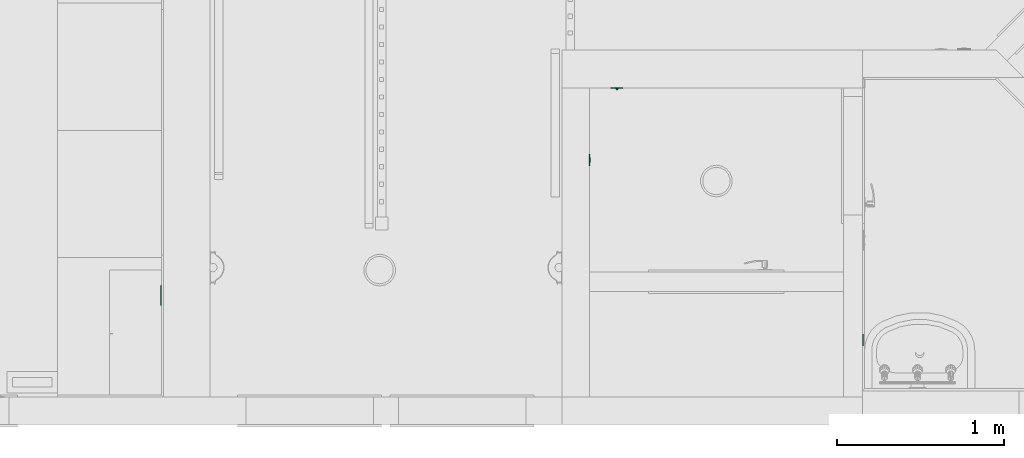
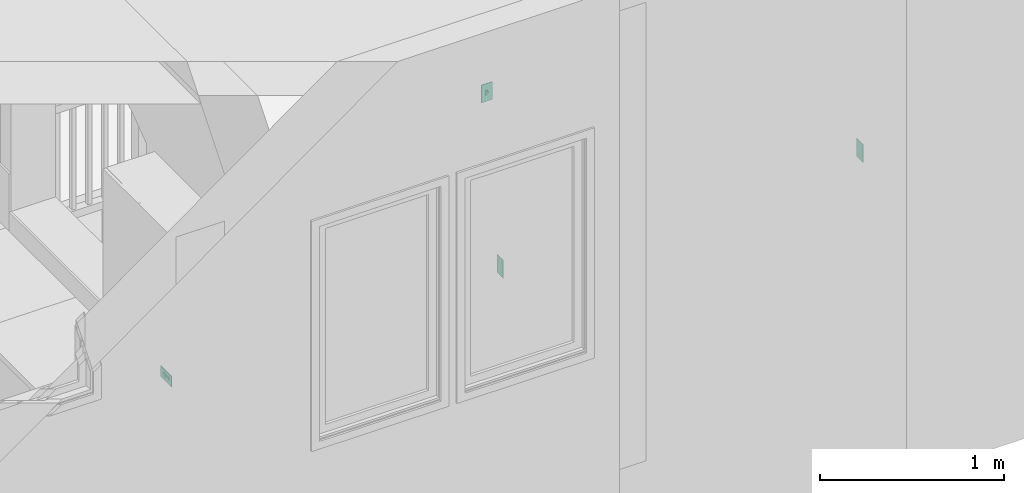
# One storey, part 12 of 103: 4 flow controllers.
"""IFC2X3 building model written with IfcOpenShell, lengths in inches."""

from ifc_helpers import new_model, entity, si_unit, converted_unit, derived_unit, money_unit, direction, frame, origin_with_axes, place, context, subcontext, project, spatial, faceted_brep, source, transform, mapped, type_object, element, save


model = new_model("IFC2X3")

# Units and contexts
model_context = context("Model", 3, precision=0.00039370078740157, world=origin_with_axes(), true_north=direction((0.0, 1.0)))
plan_context = context("Plan", 3, precision=0.00039370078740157, world=origin_with_axes(), true_north=direction((0.0, 1.0)))
body_context = subcontext(model_context, "Body", "Model", "MODEL_VIEW")
ifc_project = project(units=[converted_unit("LENGTHUNIT", "INCH", entity("IfcPositiveLengthMeasure", 0.0254), si_unit("LENGTHUNIT", "METRE"), dimensions=[1, 0, 0, 0, 0, 0, 0]), converted_unit("AREAUNIT", "SQUARE_FOOT", entity("IfcPositiveLengthMeasure", 0.09290304), si_unit("AREAUNIT", "SQUARE_METRE"), dimensions=[2, 0, 0, 0, 0, 0, 0]), si_unit("PLANEANGLEUNIT", "RADIAN"), si_unit("SOLIDANGLEUNIT", "STERADIAN"), money_unit("USD"), converted_unit("TIMEUNIT", "Year", entity("IfcTimeMeasure", 31557600.0), si_unit("TIMEUNIT", "SECOND"), dimensions=[0, 0, 1, 0, 0, 0, 0]), si_unit("MASSUNIT", "GRAM", prefix="KILO"), si_unit("THERMODYNAMICTEMPERATUREUNIT", "DEGREE_CELSIUS"), si_unit("LUMINOUSINTENSITYUNIT", "LUMEN"), si_unit("ENERGYUNIT", "JOULE", prefix="MEGA"), derived_unit("SPECIFICHEATCAPACITYUNIT", [(si_unit("ENERGYUNIT", "JOULE"), 1), (si_unit("MASSUNIT", "GRAM", prefix="KILO"), -1), (si_unit("THERMODYNAMICTEMPERATUREUNIT", "KELVIN"), -1)])], contexts=[model_context, plan_context])

# Site, building, storey
site_placement = place(None, origin_with_axes())
site = spatial("IfcSite", under=ifc_project, at=site_placement, Name="Site", CompositionType="ELEMENT")
building_placement = place(site_placement, origin_with_axes())
building = spatial("IfcBuilding", under=site, at=building_placement, Name="Building", CompositionType="ELEMENT")
storey_placement = place(building_placement, frame((0.0, 0.0, 127.9999999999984), z_axis=(0.0, 0.0, 1.0), x_axis=(1.0, 0.0, 0.0)))
storey = spatial("IfcBuildingStorey", under=building, at=storey_placement, Name="Second Floor", CompositionType="ELEMENT", Elevation=128.0)

# Flow controllers
switching_device_type_1 = type_object("IfcSwitchingDeviceType", Name="Outlet 1 US", PredefinedType="NOTDEFINED")
shared_shape_1 = source(origin_with_axes(), body_context, "Body", "Brep", [
    faceted_brep([(0.39370078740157, -0.03444881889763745, -1.18110236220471), (0.5436477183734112, -0.03444881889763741, -0.7086614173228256), (0.5436477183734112, -0.2165354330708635, -0.7086614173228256), (0.39370078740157, -0.2165354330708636, -1.18110236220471), (-0.3937007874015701, -0.03444881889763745, -1.181102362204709), (-0.543647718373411, -0.03444881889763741, -0.7086614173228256), (-0.39370078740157, -0.03444881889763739, -0.2362204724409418), (0.3937007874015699, -0.03444881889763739, -0.2362204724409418), (-0.196850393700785, -0.03444881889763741, -0.7086614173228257), (-0.196850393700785, -0.0344488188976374, -0.4724409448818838), (-0.275590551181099, -0.0344488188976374, -0.4724409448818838), (-0.275590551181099, -0.03444881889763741, -0.7086614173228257), (0.196850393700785, -0.03444881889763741, -0.7086614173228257), (0.275590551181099, -0.03444881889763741, -0.7086614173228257), (0.275590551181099, -0.0344488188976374, -0.4724409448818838), (0.196850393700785, -0.0344488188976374, -0.4724409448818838), (-0.078740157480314, -0.03444881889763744, -1.102362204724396), (0.078740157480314, -0.03444881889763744, -1.102362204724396), (0.078740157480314, -0.03444881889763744, -1.023622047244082), (0.06819097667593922, -0.03444881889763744, -0.9842519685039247), (0.03937007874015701, -0.03444881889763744, -0.9554310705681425), (0.0, -0.03444881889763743, -0.9448818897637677), (-0.03937007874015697, -0.03444881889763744, -0.9554310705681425), (-0.06819097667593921, -0.03444881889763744, -0.9842519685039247), (-0.078740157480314, -0.03444881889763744, -1.023622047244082), (0.3937007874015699, -0.2165354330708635, -0.2362204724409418), (-0.39370078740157, -0.2165354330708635, -0.2362204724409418), (-0.543647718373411, -0.2165354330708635, -0.7086614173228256), (-0.3937007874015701, -0.2165354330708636, -1.181102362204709), (-0.196850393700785, -0.2165354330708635, -0.7086614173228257), (-0.275590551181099, -0.2165354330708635, -0.7086614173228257), (-0.275590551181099, -0.2165354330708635, -0.4724409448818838), (-0.196850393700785, -0.2165354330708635, -0.4724409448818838), (0.196850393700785, -0.2165354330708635, -0.7086614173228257), (0.196850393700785, -0.2165354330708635, -0.4724409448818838), (0.275590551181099, -0.2165354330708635, -0.4724409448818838), (0.275590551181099, -0.2165354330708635, -0.7086614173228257), (-0.078740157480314, -0.2165354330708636, -1.102362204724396), (-0.078740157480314, -0.2165354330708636, -1.023622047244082), (-0.06819097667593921, -0.2165354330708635, -0.9842519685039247), (-0.03937007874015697, -0.2165354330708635, -0.9554310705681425), (0.0, -0.2165354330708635, -0.9448818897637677), (0.03937007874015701, -0.2165354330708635, -0.9554310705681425), (0.06819097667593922, -0.2165354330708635, -0.9842519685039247), (0.078740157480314, -0.2165354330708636, -1.023622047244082), (0.078740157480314, -0.2165354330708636, -1.102362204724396)], [[[0, 1, 2, 3]], [[0, 4, 5, 6, 7, 1], [8, 9, 10, 11], [12, 13, 14, 15], [16, 17, 18, 19, 20, 21, 22, 23, 24]], [[1, 7, 25, 2]], [[3, 2, 25, 26, 27, 28], [29, 30, 31, 32], [33, 34, 35, 36], [37, 38, 39, 40, 41, 42, 43, 44, 45]], [[4, 0, 3, 28]], [[5, 4, 28, 27]], [[6, 5, 27, 26]], [[7, 6, 26, 25]], [[9, 8, 29, 32]], [[10, 9, 32, 31]], [[11, 10, 31, 30]], [[8, 11, 30, 29]], [[13, 12, 33, 36]], [[14, 13, 36, 35]], [[15, 14, 35, 34]], [[12, 15, 34, 33]], [[17, 16, 37, 45]], [[18, 17, 45, 44]], [[19, 18, 44, 43]], [[20, 19, 43, 42]], [[21, 20, 42, 41]], [[22, 21, 41, 40]], [[23, 22, 40, 39]], [[24, 23, 39, 38]], [[16, 24, 38, 37]]]),
    faceted_brep([(0.39370078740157, -0.03444881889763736, 0.2362204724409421), (0.5436477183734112, -0.03444881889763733, 0.7086614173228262), (0.5436477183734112, -0.2165354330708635, 0.7086614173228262), (0.39370078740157, -0.2165354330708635, 0.2362204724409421), (-0.3937007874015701, -0.03444881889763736, 0.2362204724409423), (-0.543647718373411, -0.03444881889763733, 0.7086614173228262), (-0.39370078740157, -0.0344488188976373, 1.18110236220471), (0.3937007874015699, -0.0344488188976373, 1.18110236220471), (-0.196850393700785, -0.03444881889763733, 0.7086614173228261), (-0.196850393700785, -0.03444881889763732, 0.944881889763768), (-0.275590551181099, -0.03444881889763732, 0.944881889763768), (-0.275590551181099, -0.03444881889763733, 0.7086614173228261), (0.196850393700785, -0.03444881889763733, 0.7086614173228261), (0.275590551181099, -0.03444881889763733, 0.7086614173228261), (0.275590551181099, -0.03444881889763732, 0.944881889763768), (0.196850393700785, -0.03444881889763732, 0.944881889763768), (-0.078740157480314, -0.03444881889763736, 0.3149606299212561), (0.078740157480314, -0.03444881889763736, 0.3149606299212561), (0.078740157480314, -0.03444881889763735, 0.3937007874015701), (0.06819097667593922, -0.03444881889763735, 0.4330708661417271), (0.03937007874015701, -0.03444881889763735, 0.4618917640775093), (0.0, -0.03444881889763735, 0.472440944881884), (-0.03937007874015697, -0.03444881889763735, 0.4618917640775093), (-0.06819097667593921, -0.03444881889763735, 0.4330708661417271), (-0.078740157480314, -0.03444881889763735, 0.3937007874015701), (0.3937007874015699, -0.2165354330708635, 1.18110236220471), (-0.39370078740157, -0.2165354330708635, 1.18110236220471), (-0.543647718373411, -0.2165354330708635, 0.7086614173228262), (-0.3937007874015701, -0.2165354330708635, 0.2362204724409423), (-0.196850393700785, -0.2165354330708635, 0.7086614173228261), (-0.275590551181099, -0.2165354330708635, 0.7086614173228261), (-0.275590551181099, -0.2165354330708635, 0.944881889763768), (-0.196850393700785, -0.2165354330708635, 0.944881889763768), (0.196850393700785, -0.2165354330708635, 0.7086614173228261), (0.196850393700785, -0.2165354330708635, 0.944881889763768), (0.275590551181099, -0.2165354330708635, 0.944881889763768), (0.275590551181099, -0.2165354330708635, 0.7086614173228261), (-0.078740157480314, -0.2165354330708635, 0.3149606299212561), (-0.078740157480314, -0.2165354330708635, 0.3937007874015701), (-0.06819097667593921, -0.2165354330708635, 0.4330708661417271), (-0.03937007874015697, -0.2165354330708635, 0.4618917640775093), (0.0, -0.2165354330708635, 0.472440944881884), (0.03937007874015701, -0.2165354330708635, 0.4618917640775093), (0.06819097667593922, -0.2165354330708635, 0.4330708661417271), (0.078740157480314, -0.2165354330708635, 0.3937007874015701), (0.078740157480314, -0.2165354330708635, 0.3149606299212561)], [[[0, 1, 2, 3]], [[0, 4, 5, 6, 7, 1], [8, 9, 10, 11], [12, 13, 14, 15], [16, 17, 18, 19, 20, 21, 22, 23, 24]], [[1, 7, 25, 2]], [[3, 2, 25, 26, 27, 28], [29, 30, 31, 32], [33, 34, 35, 36], [37, 38, 39, 40, 41, 42, 43, 44, 45]], [[4, 0, 3, 28]], [[5, 4, 28, 27]], [[6, 5, 27, 26]], [[7, 6, 26, 25]], [[9, 8, 29, 32]], [[10, 9, 32, 31]], [[11, 10, 31, 30]], [[8, 11, 30, 29]], [[13, 12, 33, 36]], [[14, 13, 36, 35]], [[15, 14, 35, 34]], [[12, 15, 34, 33]], [[17, 16, 37, 45]], [[18, 17, 45, 44]], [[19, 18, 44, 43]], [[20, 19, 43, 42]], [[21, 20, 42, 41]], [[22, 21, 41, 40]], [[23, 22, 40, 39]], [[24, 23, 39, 38]], [[16, 24, 38, 37]]]),
    faceted_brep([(-1.343503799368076, -0.1377952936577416, -2.327755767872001), (1.343503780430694, -0.1377952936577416, -2.327755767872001), (1.343503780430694, -0.1377952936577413, 2.327755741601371), (-1.343503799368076, -0.1377952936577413, 2.327755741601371), (0.39370078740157, -0.1377952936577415, -1.18110236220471), (-0.3937007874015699, -0.1377952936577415, -1.181102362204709), (-0.5436477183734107, -0.1377952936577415, -0.7086614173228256), (-0.39370078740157, -0.1377952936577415, -0.2362204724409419), (0.3937007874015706, -0.1377952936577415, -0.2362204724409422), (0.5436477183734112, -0.1377952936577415, -0.7086614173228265), (-0.39370078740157, -0.1377952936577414, 1.18110236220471), (0.3937007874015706, -0.1377952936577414, 1.18110236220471), (0.5436477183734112, -0.1377952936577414, 0.7086614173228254), (0.39370078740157, -0.1377952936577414, 0.236220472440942), (-0.3937007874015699, -0.1377952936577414, 0.2362204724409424), (-0.5436477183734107, -0.1377952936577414, 0.7086614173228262), (-1.352419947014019, -0.1366214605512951, -2.336671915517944), (1.352419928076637, -0.1366214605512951, -2.336671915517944), (1.352419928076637, -0.1366214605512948, 2.336671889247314), (-1.352419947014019, -0.1366214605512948, 2.336671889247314), (0.39370078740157, -0.03444881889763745, -1.18110236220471), (-0.3937007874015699, -0.03444881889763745, -1.181102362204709), (-0.5436477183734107, -0.03444881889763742, -0.7086614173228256), (-0.39370078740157, -0.03444881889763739, -0.2362204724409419), (0.3937007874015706, -0.03444881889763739, -0.2362204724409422), (0.5436477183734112, -0.03444881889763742, -0.7086614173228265), (-0.39370078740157, -0.0344488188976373, 1.18110236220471), (0.3937007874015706, -0.0344488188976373, 1.18110236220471), (0.5436477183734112, -0.03444881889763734, 0.7086614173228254), (0.39370078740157, -0.03444881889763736, 0.236220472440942), (-0.3937007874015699, -0.03444881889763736, 0.2362204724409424), (-0.5436477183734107, -0.03444881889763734, 0.7086614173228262), (-1.36786294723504, -0.1277054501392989, -2.352114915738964), (1.367862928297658, -0.1277054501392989, -2.352114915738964), (1.367862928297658, -0.1277054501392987, 2.352114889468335), (-1.36786294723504, -0.1277054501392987, 2.352114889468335), (-1.376778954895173, -0.1122624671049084, -2.361030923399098), (1.376778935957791, -0.1122624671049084, -2.361030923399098), (1.376778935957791, -0.1122624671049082, 2.361030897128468), (-1.376778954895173, -0.1122624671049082, 2.361030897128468), (-1.377952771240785, -0.1033464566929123, -2.362204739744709), (1.377952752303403, -0.1033464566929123, -2.362204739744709), (1.377952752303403, -0.103346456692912, 2.36220471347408), (-1.377952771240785, -0.103346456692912, 2.36220471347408), (-1.377952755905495, 0.0, -2.36220472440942), (1.377952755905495, 0.0, -2.36220472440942), (1.377952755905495, 0.0, 2.36220472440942), (-1.377952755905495, 0.0, 2.36220472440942)], [[[0, 1, 2, 3], [4, 5, 6, 7, 8, 9], [10, 11, 12, 13, 14, 15]], [[1, 0, 16, 17]], [[2, 1, 17, 18]], [[3, 2, 18, 19]], [[0, 3, 19, 16]], [[4, 20, 21, 5]], [[5, 21, 22, 6]], [[6, 22, 23, 7]], [[7, 23, 24, 8]], [[8, 24, 25, 9]], [[9, 25, 20, 4]], [[11, 10, 26, 27]], [[12, 11, 27, 28]], [[13, 12, 28, 29]], [[14, 13, 29, 30]], [[15, 14, 30, 31]], [[10, 15, 31, 26]], [[17, 16, 32, 33]], [[18, 17, 33, 34]], [[19, 18, 34, 35]], [[16, 19, 35, 32]], [[22, 21, 20, 25, 24, 23]], [[28, 27, 26, 31, 30, 29]], [[33, 32, 36, 37]], [[34, 33, 37, 38]], [[35, 34, 38, 39]], [[32, 35, 39, 36]], [[37, 36, 40, 41]], [[38, 37, 41, 42]], [[39, 38, 42, 43]], [[36, 39, 43, 40]], [[41, 40, 44, 45]], [[42, 41, 45, 46]], [[43, 42, 46, 47]], [[40, 43, 47, 44]], [[46, 45, 44, 47]]]),
])
for number, where, z_axis, x_axis, name in (
    (1, (250.9999999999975, 62.49999999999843, 12.99999999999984), (0.0, 0.0, 1.0), (0.0, 1.0, 0.0), "FU - 029"),
    (2, (315.499999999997, 19.99999999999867, 46.49999999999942), (0.0, 0.0, 1.0), (0.0, 1.0, 0.0), "FU - 029"),
):
    element("IfcFlowController", number, at=place(storey_placement, frame(where, z_axis=z_axis, x_axis=x_axis)), inside=storey, type_object=switching_device_type_1, Name=name, context=body_context, shape_type="MappedRepresentation", body=[
        mapped(shared_shape_1, transform((0.0, 0.0, 0.0))),
    ])
switching_device_type_2 = type_object("IfcSwitchingDeviceType", Name="Switch US", PredefinedType="NOTDEFINED")
shared_shape_2 = source(origin_with_axes(), body_context, "Body", "Brep", [
    faceted_brep([(0.196850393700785, 0.0, -0.5905511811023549), (-0.196850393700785, 0.0, -0.5905511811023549), (-0.196850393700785, 0.0, 0.5905511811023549), (0.196850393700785, 0.0, 0.5905511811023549), (0.196850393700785, -0.1033464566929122, -0.5905511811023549), (-0.196850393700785, -0.1033464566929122, -0.5905511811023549), (-0.196850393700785, -0.1033464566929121, 0.157480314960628), (-0.196850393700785, -0.4970472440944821, 0.1574803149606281), (-0.196850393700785, -0.4970472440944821, 0.472440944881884), (-0.196850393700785, -0.1033464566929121, 0.472440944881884), (-0.196850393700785, -0.1033464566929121, 0.5905511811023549), (0.196850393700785, -0.103346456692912, 0.5905511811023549), (0.196850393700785, -0.1033464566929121, 0.472440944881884), (0.196850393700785, -0.4970472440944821, 0.472440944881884), (0.196850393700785, -0.4970472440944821, 0.1574803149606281), (0.196850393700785, -0.1033464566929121, 0.157480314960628)], [[[0, 1, 2, 3]], [[4, 5, 1, 0]], [[1, 5, 6, 7, 8, 9, 10, 2]], [[3, 2, 10, 11]], [[0, 3, 11, 12, 13, 14, 15, 4]], [[15, 6, 5, 4]], [[14, 7, 6, 15]], [[13, 8, 7, 14]], [[12, 9, 8, 13]], [[11, 10, 9, 12]]]),
    faceted_brep([(0.275590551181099, 0.0, -0.669291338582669), (0.275590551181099, -0.1771653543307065, -0.669291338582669), (-0.275590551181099, -0.1771653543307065, -0.669291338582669), (-0.275590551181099, 0.0, -0.669291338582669), (0.275590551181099, 0.0, 0.669291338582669), (0.275590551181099, -0.1771653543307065, 0.669291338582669), (-0.275590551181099, -0.1771653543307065, 0.669291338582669), (0.196850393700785, -0.1771653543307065, -0.5905511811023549), (-0.196850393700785, -0.1771653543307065, -0.5905511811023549), (-0.196850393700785, -0.1771653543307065, 0.5905511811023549), (0.196850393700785, -0.1771653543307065, 0.5905511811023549), (-0.275590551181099, 0.0, 0.669291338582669), (0.196850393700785, 0.0, -0.5905511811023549), (0.196850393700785, 0.0, 0.5905511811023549), (-0.196850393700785, 0.0, 0.5905511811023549), (-0.196850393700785, 0.0, -0.5905511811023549)], [[[0, 1, 2, 3]], [[4, 5, 1, 0]], [[1, 5, 6, 2], [7, 8, 9, 10]], [[3, 2, 6, 11]], [[0, 3, 11, 4], [12, 13, 14, 15]], [[11, 6, 5, 4]], [[15, 8, 7, 12]], [[14, 9, 8, 15]], [[13, 10, 9, 14]], [[12, 7, 10, 13]]]),
    faceted_brep([(1.343503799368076, -0.1377952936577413, 2.32775574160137), (-1.343503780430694, -0.1377952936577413, 2.32775574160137), (-1.343503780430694, -0.1377952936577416, -2.327755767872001), (1.343503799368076, -0.1377952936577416, -2.327755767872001), (0.275590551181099, -0.1377952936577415, -0.669291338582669), (-0.275590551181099, -0.1377952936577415, -0.669291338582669), (-0.275590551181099, -0.1377952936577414, 0.669291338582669), (0.275590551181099, -0.1377952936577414, 0.669291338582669), (1.352419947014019, -0.1366214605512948, 2.336671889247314), (-1.352419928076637, -0.1366214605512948, 2.336671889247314), (-1.352419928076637, -0.1366214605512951, -2.336671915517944), (1.352419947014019, -0.1366214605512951, -2.336671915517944), (-0.275590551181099, 0.0, -0.669291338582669), (0.275590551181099, 0.0, -0.669291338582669), (-0.275590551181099, 0.0, 0.669291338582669), (0.275590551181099, 0.0, 0.669291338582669), (1.36786294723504, -0.1277054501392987, 2.352114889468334), (-1.367862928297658, -0.1277054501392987, 2.352114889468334), (-1.367862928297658, -0.1277054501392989, -2.352114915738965), (1.36786294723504, -0.1277054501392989, -2.352114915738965), (1.377952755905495, 0.0, 2.36220472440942), (1.377952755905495, 0.0, -2.36220472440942), (-1.377952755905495, 0.0, -2.36220472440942), (-1.377952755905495, 0.0, 2.36220472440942), (1.376778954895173, -0.1122624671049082, 2.361030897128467), (-1.376778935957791, -0.1122624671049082, 2.361030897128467), (-1.376778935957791, -0.1122624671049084, -2.361030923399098), (1.376778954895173, -0.1122624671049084, -2.361030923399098), (1.377952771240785, -0.103346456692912, 2.362204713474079), (1.377952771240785, -0.1033464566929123, -2.36220473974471), (-1.377952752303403, -0.1033464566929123, -2.36220473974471), (-1.377952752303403, -0.103346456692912, 2.362204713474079)], [[[0, 1, 2, 3], [4, 5, 6, 7]], [[8, 9, 1, 0]], [[9, 10, 2, 1]], [[10, 11, 3, 2]], [[11, 8, 0, 3]], [[12, 5, 4, 13]], [[14, 6, 5, 12]], [[15, 7, 6, 14]], [[13, 4, 7, 15]], [[16, 17, 9, 8]], [[17, 18, 10, 9]], [[18, 19, 11, 10]], [[19, 16, 8, 11]], [[20, 21, 22, 23], [13, 15, 14, 12]], [[24, 25, 17, 16]], [[25, 26, 18, 17]], [[26, 27, 19, 18]], [[27, 24, 16, 19]], [[21, 20, 28, 29]], [[22, 21, 29, 30]], [[23, 22, 30, 31]], [[20, 23, 31, 28]], [[28, 31, 25, 24]], [[31, 30, 26, 25]], [[30, 29, 27, 26]], [[29, 28, 24, 27]]]),
])
flow_controller_1_placement = place(storey_placement, frame((257.4999999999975, 79.53124999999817, 45.99999999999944), z_axis=(0.0, 0.0, 1.0), x_axis=(0.999997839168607, 0.002078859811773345, 0.0)))
element("IfcFlowController", 3, at=flow_controller_1_placement, inside=storey, type_object=switching_device_type_2, Name="OBJ-09", context=body_context, shape_type="MappedRepresentation", body=[
    mapped(shared_shape_2, transform((0.0, 0.0, 0.0))),
])
shared_shape_3 = source(origin_with_axes(), body_context, "Body", "Brep", [
    faceted_brep([(1.18110236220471, -0.03444881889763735, 0.3937007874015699), (0.708661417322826, -0.03444881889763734, 0.5436477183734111), (0.708661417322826, -0.2165354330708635, 0.5436477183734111), (1.18110236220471, -0.2165354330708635, 0.3937007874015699), (1.18110236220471, -0.0344488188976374, -0.3937007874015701), (0.708661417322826, -0.03444881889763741, -0.543647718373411), (0.2362204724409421, -0.0344488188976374, -0.3937007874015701), (0.2362204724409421, -0.03444881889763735, 0.3937007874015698), (0.7086614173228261, -0.03444881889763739, -0.196850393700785), (0.472440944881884, -0.03444881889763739, -0.196850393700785), (0.472440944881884, -0.03444881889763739, -0.275590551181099), (0.7086614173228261, -0.03444881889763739, -0.275590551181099), (0.7086614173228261, -0.03444881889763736, 0.196850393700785), (0.7086614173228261, -0.03444881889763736, 0.275590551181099), (0.472440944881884, -0.03444881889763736, 0.275590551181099), (0.472440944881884, -0.03444881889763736, 0.196850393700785), (1.102362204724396, -0.03444881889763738, -0.07874015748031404), (1.102362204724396, -0.03444881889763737, 0.07874015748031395), (1.023622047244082, -0.03444881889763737, 0.07874015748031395), (0.984251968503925, -0.03444881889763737, 0.06819097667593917), (0.9554310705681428, -0.03444881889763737, 0.03937007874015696), (0.944881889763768, -0.03444881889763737, 0.0), (0.9554310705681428, -0.03444881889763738, -0.03937007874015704), (0.984251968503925, -0.03444881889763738, -0.06819097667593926), (1.023622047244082, -0.03444881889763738, -0.07874015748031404), (0.2362204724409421, -0.2165354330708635, 0.3937007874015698), (0.2362204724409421, -0.2165354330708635, -0.3937007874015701), (0.708661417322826, -0.2165354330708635, -0.543647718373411), (1.18110236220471, -0.2165354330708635, -0.3937007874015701), (0.7086614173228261, -0.2165354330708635, -0.196850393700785), (0.7086614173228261, -0.2165354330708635, -0.275590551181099), (0.472440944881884, -0.2165354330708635, -0.275590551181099), (0.472440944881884, -0.2165354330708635, -0.196850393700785), (0.7086614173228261, -0.2165354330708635, 0.196850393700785), (0.472440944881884, -0.2165354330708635, 0.196850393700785), (0.472440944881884, -0.2165354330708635, 0.275590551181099), (0.7086614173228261, -0.2165354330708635, 0.275590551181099), (1.102362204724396, -0.2165354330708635, -0.07874015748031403), (1.023622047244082, -0.2165354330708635, -0.07874015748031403), (0.984251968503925, -0.2165354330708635, -0.06819097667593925), (0.9554310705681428, -0.2165354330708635, -0.03937007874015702), (0.944881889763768, -0.2165354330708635, 0.0), (0.9554310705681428, -0.2165354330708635, 0.03937007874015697), (0.984251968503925, -0.2165354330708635, 0.06819097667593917), (1.023622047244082, -0.2165354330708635, 0.07874015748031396), (1.102362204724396, -0.2165354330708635, 0.07874015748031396)], [[[0, 1, 2, 3]], [[0, 4, 5, 6, 7, 1], [8, 9, 10, 11], [12, 13, 14, 15], [16, 17, 18, 19, 20, 21, 22, 23, 24]], [[1, 7, 25, 2]], [[3, 2, 25, 26, 27, 28], [29, 30, 31, 32], [33, 34, 35, 36], [37, 38, 39, 40, 41, 42, 43, 44, 45]], [[4, 0, 3, 28]], [[5, 4, 28, 27]], [[6, 5, 27, 26]], [[7, 6, 26, 25]], [[9, 8, 29, 32]], [[10, 9, 32, 31]], [[11, 10, 31, 30]], [[8, 11, 30, 29]], [[13, 12, 33, 36]], [[14, 13, 36, 35]], [[15, 14, 35, 34]], [[12, 15, 34, 33]], [[17, 16, 37, 45]], [[18, 17, 45, 44]], [[19, 18, 44, 43]], [[20, 19, 43, 42]], [[21, 20, 42, 41]], [[22, 21, 41, 40]], [[23, 22, 40, 39]], [[24, 23, 39, 38]], [[16, 24, 38, 37]]]),
    faceted_brep([(-0.2362204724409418, -0.03444881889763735, 0.3937007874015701), (-0.708661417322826, -0.03444881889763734, 0.5436477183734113), (-0.708661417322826, -0.2165354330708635, 0.5436477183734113), (-0.2362204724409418, -0.2165354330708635, 0.3937007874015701), (-0.2362204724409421, -0.0344488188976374, -0.39370078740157), (-0.708661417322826, -0.03444881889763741, -0.5436477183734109), (-1.18110236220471, -0.0344488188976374, -0.3937007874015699), (-1.18110236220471, -0.03444881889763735, 0.39370078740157), (-0.7086614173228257, -0.03444881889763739, -0.196850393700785), (-0.9448818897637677, -0.03444881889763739, -0.196850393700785), (-0.9448818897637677, -0.03444881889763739, -0.275590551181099), (-0.7086614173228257, -0.03444881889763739, -0.275590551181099), (-0.7086614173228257, -0.03444881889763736, 0.196850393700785), (-0.7086614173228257, -0.03444881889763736, 0.275590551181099), (-0.9448818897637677, -0.03444881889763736, 0.275590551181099), (-0.9448818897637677, -0.03444881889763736, 0.196850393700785), (-0.3149606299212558, -0.03444881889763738, -0.07874015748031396), (-0.3149606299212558, -0.03444881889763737, 0.07874015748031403), (-0.3937007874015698, -0.03444881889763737, 0.07874015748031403), (-0.4330708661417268, -0.03444881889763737, 0.06819097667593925), (-0.461891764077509, -0.03444881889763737, 0.03937007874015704), (-0.4724409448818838, -0.03444881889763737, 0.0), (-0.461891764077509, -0.03444881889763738, -0.03937007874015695), (-0.4330708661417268, -0.03444881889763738, -0.06819097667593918), (-0.3937007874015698, -0.03444881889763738, -0.07874015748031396), (-1.18110236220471, -0.2165354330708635, 0.39370078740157), (-1.18110236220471, -0.2165354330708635, -0.3937007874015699), (-0.708661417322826, -0.2165354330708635, -0.5436477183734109), (-0.2362204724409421, -0.2165354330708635, -0.39370078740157), (-0.7086614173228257, -0.2165354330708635, -0.196850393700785), (-0.7086614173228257, -0.2165354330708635, -0.275590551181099), (-0.9448818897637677, -0.2165354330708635, -0.275590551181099), (-0.9448818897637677, -0.2165354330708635, -0.196850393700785), (-0.7086614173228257, -0.2165354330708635, 0.196850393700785), (-0.9448818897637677, -0.2165354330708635, 0.196850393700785), (-0.9448818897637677, -0.2165354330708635, 0.275590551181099), (-0.7086614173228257, -0.2165354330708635, 0.275590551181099), (-0.3149606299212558, -0.2165354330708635, -0.07874015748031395), (-0.3937007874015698, -0.2165354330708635, -0.07874015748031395), (-0.4330708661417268, -0.2165354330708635, -0.06819097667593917), (-0.461891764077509, -0.2165354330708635, -0.03937007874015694), (-0.4724409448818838, -0.2165354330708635, 0.0), (-0.461891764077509, -0.2165354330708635, 0.03937007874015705), (-0.4330708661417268, -0.2165354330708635, 0.06819097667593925), (-0.3937007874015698, -0.2165354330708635, 0.07874015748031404), (-0.3149606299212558, -0.2165354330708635, 0.07874015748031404)], [[[0, 1, 2, 3]], [[0, 4, 5, 6, 7, 1], [8, 9, 10, 11], [12, 13, 14, 15], [16, 17, 18, 19, 20, 21, 22, 23, 24]], [[1, 7, 25, 2]], [[3, 2, 25, 26, 27, 28], [29, 30, 31, 32], [33, 34, 35, 36], [37, 38, 39, 40, 41, 42, 43, 44, 45]], [[4, 0, 3, 28]], [[5, 4, 28, 27]], [[6, 5, 27, 26]], [[7, 6, 26, 25]], [[9, 8, 29, 32]], [[10, 9, 32, 31]], [[11, 10, 31, 30]], [[8, 11, 30, 29]], [[13, 12, 33, 36]], [[14, 13, 36, 35]], [[15, 14, 35, 34]], [[12, 15, 34, 33]], [[17, 16, 37, 45]], [[18, 17, 45, 44]], [[19, 18, 44, 43]], [[20, 19, 43, 42]], [[21, 20, 42, 41]], [[22, 21, 41, 40]], [[23, 22, 40, 39]], [[24, 23, 39, 38]], [[16, 24, 38, 37]]]),
    faceted_brep([(2.327755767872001, -0.1377952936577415, -1.343503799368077), (2.327755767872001, -0.1377952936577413, 1.343503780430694), (-2.32775574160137, -0.1377952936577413, 1.343503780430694), (-2.32775574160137, -0.1377952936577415, -1.343503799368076), (1.18110236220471, -0.1377952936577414, -0.39370078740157), (0.708661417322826, -0.1377952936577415, -0.5436477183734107), (0.2362204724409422, -0.1377952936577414, -0.39370078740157), (0.2362204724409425, -0.1377952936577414, 0.3937007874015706), (0.7086614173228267, -0.1377952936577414, 0.5436477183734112), (1.18110236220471, -0.1377952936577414, 0.3937007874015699), (-1.181102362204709, -0.1377952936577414, 0.3937007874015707), (-0.7086614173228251, -0.1377952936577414, 0.5436477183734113), (-0.2362204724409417, -0.1377952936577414, 0.39370078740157), (-0.2362204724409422, -0.1377952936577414, -0.3937007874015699), (-0.708661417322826, -0.1377952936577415, -0.5436477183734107), (-1.18110236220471, -0.1377952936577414, -0.3937007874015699), (2.336671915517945, -0.1366214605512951, -1.352419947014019), (2.336671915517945, -0.1366214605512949, 1.352419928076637), (-2.336671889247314, -0.1366214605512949, 1.352419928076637), (-2.336671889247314, -0.1366214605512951, -1.352419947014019), (1.18110236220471, -0.0344488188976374, -0.39370078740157), (0.708661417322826, -0.0344488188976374, -0.5436477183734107), (0.2362204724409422, -0.0344488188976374, -0.39370078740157), (0.2362204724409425, -0.03444881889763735, 0.3937007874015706), (0.7086614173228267, -0.03444881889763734, 0.5436477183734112), (1.18110236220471, -0.03444881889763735, 0.3937007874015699), (-1.181102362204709, -0.03444881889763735, 0.3937007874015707), (-0.7086614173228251, -0.03444881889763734, 0.5436477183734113), (-0.2362204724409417, -0.03444881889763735, 0.39370078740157), (-0.2362204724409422, -0.0344488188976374, -0.3937007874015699), (-0.708661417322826, -0.0344488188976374, -0.5436477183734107), (-1.18110236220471, -0.0344488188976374, -0.3937007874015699), (2.352114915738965, -0.1277054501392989, -1.36786294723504), (2.352114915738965, -0.1277054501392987, 1.367862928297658), (-2.352114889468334, -0.1277054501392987, 1.367862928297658), (-2.352114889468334, -0.1277054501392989, -1.367862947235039), (2.361030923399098, -0.1122624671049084, -1.376778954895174), (2.361030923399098, -0.1122624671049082, 1.376778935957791), (-2.361030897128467, -0.1122624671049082, 1.376778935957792), (-2.361030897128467, -0.1122624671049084, -1.376778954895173), (2.36220473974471, -0.1033464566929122, -1.377952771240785), (2.36220473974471, -0.103346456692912, 1.377952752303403), (-2.362204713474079, -0.103346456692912, 1.377952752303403), (-2.362204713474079, -0.1033464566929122, -1.377952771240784), (2.36220472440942, 0.0, -1.377952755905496), (2.36220472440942, 0.0, 1.377952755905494), (-2.36220472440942, 0.0, 1.377952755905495), (-2.36220472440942, 0.0, -1.377952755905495)], [[[0, 1, 2, 3], [4, 5, 6, 7, 8, 9], [10, 11, 12, 13, 14, 15]], [[1, 0, 16, 17]], [[2, 1, 17, 18]], [[3, 2, 18, 19]], [[0, 3, 19, 16]], [[4, 20, 21, 5]], [[5, 21, 22, 6]], [[6, 22, 23, 7]], [[7, 23, 24, 8]], [[8, 24, 25, 9]], [[9, 25, 20, 4]], [[11, 10, 26, 27]], [[12, 11, 27, 28]], [[13, 12, 28, 29]], [[14, 13, 29, 30]], [[15, 14, 30, 31]], [[10, 15, 31, 26]], [[17, 16, 32, 33]], [[18, 17, 33, 34]], [[19, 18, 34, 35]], [[16, 19, 35, 32]], [[21, 20, 25, 24, 23, 22]], [[27, 26, 31, 30, 29, 28]], [[33, 32, 36, 37]], [[34, 33, 37, 38]], [[35, 34, 38, 39]], [[32, 35, 39, 36]], [[37, 36, 40, 41]], [[38, 37, 41, 42]], [[39, 38, 42, 43]], [[36, 39, 43, 40]], [[41, 40, 44, 45]], [[42, 41, 45, 46]], [[43, 42, 46, 47]], [[40, 43, 47, 44]], [[46, 45, 44, 47]]]),
])
flow_controller_2_placement = place(storey_placement, frame((150.000210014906, 30.50070309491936, 38.99803149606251), z_axis=(0.0, 0.0, 1.0), x_axis=(2.019381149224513e-06, -0.9999999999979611, 0.0)))
element("IfcFlowController", 4, at=flow_controller_2_placement, inside=storey, type_object=switching_device_type_1, Name="FU - 029", context=body_context, shape_type="MappedRepresentation", body=[
    mapped(shared_shape_3, transform((0.0, 0.0, 0.0))),
])

save(model, "model.ifc")
